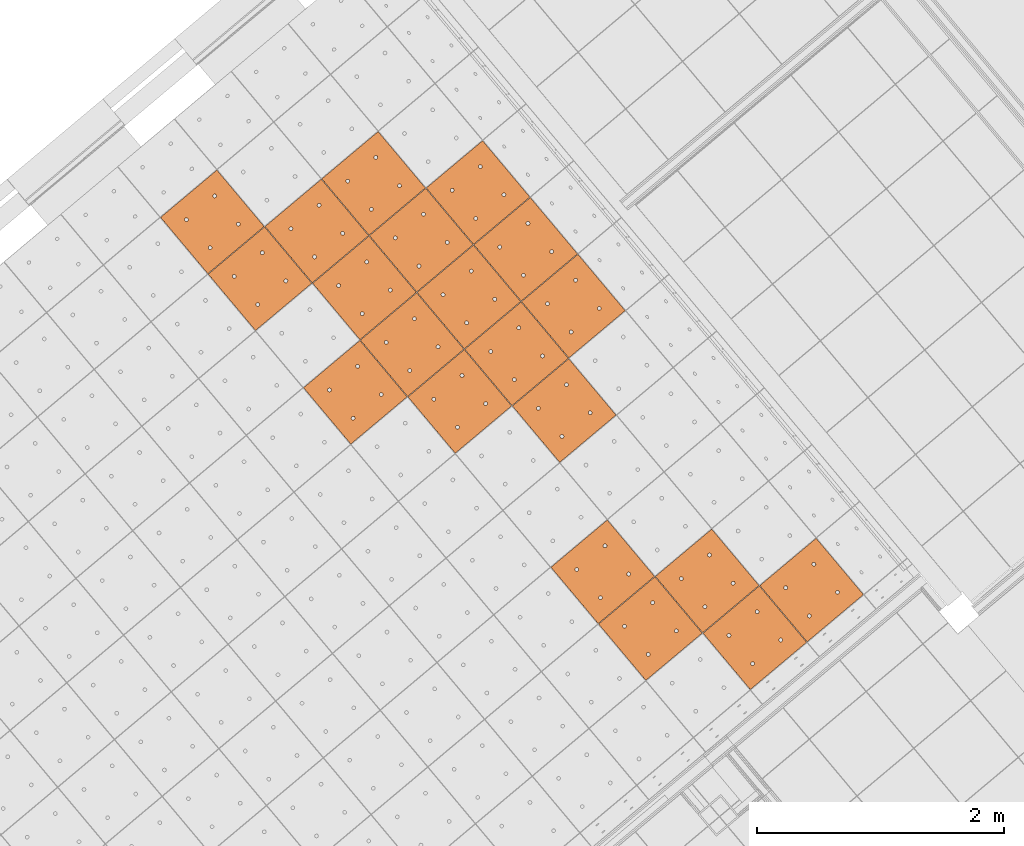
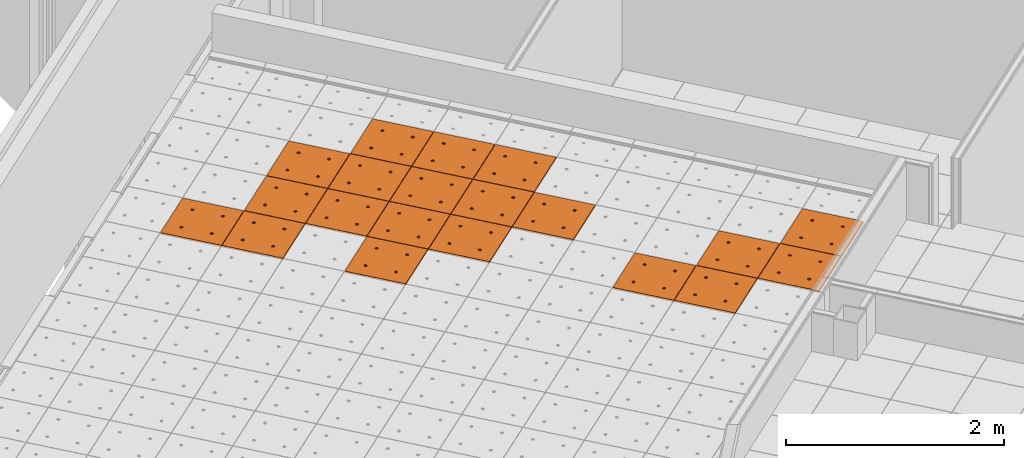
# One storey, part 173 of 338: 20 proxies, 1 element without a shape of its own.
"""IFC2X3 building model written with IfcOpenShell, lengths in millimetres."""

import ifcopenshell
import ifcopenshell.guid

model = None  # the IFC model being written
_history = None  # IfcOwnerHistory: only IFC2X3 demands one
_inside = {}  # id of a spatial element -> (the spatial element, [elements in it])
_under = {}  # id of a project, library or spatial element -> (it, [spatial elements below it])
_declared = {}  # id of a project -> (the project, [libraries it declares])
_typed = {}  # id of a type object -> (the type object, [elements of that type])
_made_of = {}  # id of a material, layer set ... -> (it, [elements and type objects made of it])


def new_model(schema):
    """Start an empty IFC model of exactly this schema.

    Asked for "IFC4X3", IfcOpenShell would pick the latest addendum, in which some entities
    have other attributes; the version numbers below select the first issue.
    IFC2X3 requires an IfcOwnerHistory on every rooted entity: one is made here for all.
    """
    global model, _history
    if schema == "IFC4X3":
        model = ifcopenshell.file(schema_version=(4, 3, 0, 0))
    else:
        model = ifcopenshell.file(schema=schema)
    _inside.clear()
    _under.clear()
    _declared.clear()
    _typed.clear()
    _made_of.clear()
    _history = None
    if model.schema == "IFC2X3":
        org = make("IfcOrganization", Name="unknown")
        user = make(
            "IfcPersonAndOrganization",
            ThePerson=make("IfcPerson", FamilyName="unknown"),
            TheOrganization=org,
        )
        app = make(
            "IfcApplication",
            ApplicationDeveloper=org,
            Version="unknown",
            ApplicationFullName="unknown",
            ApplicationIdentifier="unknown",
        )
        _history = make(
            "IfcOwnerHistory",
            OwningUser=user,
            OwningApplication=app,
            ChangeAction="ADDED",
            CreationDate=0,
        )
    return model


def make(cls, **values):
    """One entity of the class cls with the attributes given. An attribute that is None is left unset."""
    return model.create_entity(
        cls, **{name: value for name, value in values.items() if value is not None}
    )


def entity(cls, *values):
    """Any entity or typed value of the class cls, its attributes in the order of the schema. None: left unset."""
    e = model.create_entity(cls)
    for i, value in enumerate(values):
        if value is not None:
            e[i] = value
    return e


def rooted(cls, **values):
    """An entity with a GlobalId (a new one), such as an element, a storey or a relation."""
    return make(cls, GlobalId=ifcopenshell.guid.new(), OwnerHistory=_history, **values)


def si_unit(unit_type, name, prefix=None):
    """IfcSIUnit, for example si_unit("LENGTHUNIT", "METRE", prefix="MILLI")."""
    return make("IfcSIUnit", UnitType=unit_type, Prefix=prefix, Name=name)


def converted_unit(unit_type, name, factor, base, dimensions=None, offset=None):
    """IfcConversionBasedUnit, such as the inch: factor (a typed value) times the base unit."""
    return make(
        "IfcConversionBasedUnit"
        if offset is None
        else "IfcConversionBasedUnitWithOffset",
        ConversionOffset=offset,
        Dimensions=None
        if dimensions is None
        else entity("IfcDimensionalExponents", *dimensions),
        UnitType=unit_type,
        Name=name,
        ConversionFactor=make(
            "IfcMeasureWithUnit", ValueComponent=factor, UnitComponent=base
        ),
    )


def derived_unit(unit_type, elements):
    """IfcDerivedUnit: a product of units, each with its exponent."""
    return make(
        "IfcDerivedUnit",
        Elements=[
            make("IfcDerivedUnitElement", Unit=unit, Exponent=power)
            for unit, power in elements
        ],
        UnitType=unit_type,
    )


def money_unit(currency):
    """IfcMonetaryUnit."""
    return make("IfcMonetaryUnit", Currency=currency)


def assignment(units):
    """IfcUnitAssignment: the units of a project."""
    return None if units is None else make("IfcUnitAssignment", Units=units)


def point(xyz):
    """IfcCartesianPoint."""
    return None if xyz is None else make("IfcCartesianPoint", Coordinates=xyz)


def direction(xyz):
    """IfcDirection."""
    return None if xyz is None else make("IfcDirection", DirectionRatios=xyz)


def frame(location, z_axis=None, x_axis=None):
    """IfcAxis2Placement3D, a coordinate frame: its origin and axes. An axis left out is left unset."""
    return make(
        "IfcAxis2Placement3D",
        Location=point(location),
        Axis=direction(z_axis),
        RefDirection=direction(x_axis),
    )


def origin_with_axes():
    """The frame at (0, 0, 0) with the z axis (0, 0, 1) and the x axis (1, 0, 0) written out."""
    return frame((0.0, 0.0, 0.0), z_axis=(0.0, 0.0, 1.0), x_axis=(1.0, 0.0, 0.0))


def place(relative_to, where):
    """IfcLocalPlacement: puts the frame where relative to a parent placement (None: the world)."""
    return make(
        "IfcLocalPlacement", PlacementRelTo=relative_to, RelativePlacement=where
    )


def context(
    kind, dimensions, precision=None, world=None, true_north=None, identifier=None
):
    """IfcGeometricRepresentationContext, for example the 3D "Model" context."""
    return make(
        "IfcGeometricRepresentationContext",
        ContextIdentifier=identifier,
        ContextType=kind,
        CoordinateSpaceDimension=dimensions,
        Precision=precision,
        WorldCoordinateSystem=world,
        TrueNorth=true_north,
    )


def subcontext(parent, identifier, kind, view, scale=None):
    """IfcGeometricRepresentationSubContext, for example "Body" below "Model"."""
    return make(
        "IfcGeometricRepresentationSubContext",
        ContextIdentifier=identifier,
        ContextType=kind,
        ParentContext=parent,
        TargetScale=scale,
        TargetView=view,
    )


def project(units=None, contexts=None):
    """IfcProject with its units and contexts."""
    return rooted(
        "IfcProject",
        Name="project",
        RepresentationContexts=contexts,
        UnitsInContext=assignment(units),
    )


def spatial(cls, under=None, at=None, **own):
    """A site, building, storey or space (cls), placed at a placement, below another one or the project."""
    s = rooted(cls, ObjectPlacement=at, **own)
    if under is not None:
        _under.setdefault(under.id(), (under, []))[1].append(s)
    return s


def faces_of(points, faces, orient=None, outer=None):
    """IfcFace entities. A face is a list of loops; a loop is a list of indices into points, from 0.

    orient and outer hold one flag for each loop. By default every Orientation is true, the
    first loop of a face is its IfcFaceOuterBound and the others are IfcFaceBound.
    """
    made = []
    for i, loops in enumerate(faces):
        bounds = []
        for j, loop in enumerate(loops):
            is_outer = j == 0 if outer is None else outer[i][j]
            bounds.append(
                make(
                    "IfcFaceOuterBound" if is_outer else "IfcFaceBound",
                    Bound=make("IfcPolyLoop", Polygon=[points[k] for k in loop]),
                    Orientation=True if orient is None else orient[i][j],
                )
            )
        made.append(make("IfcFace", Bounds=bounds))
    return made


def faceted_brep(points, faces, orient=None, outer=None, voids=None):
    """IfcFacetedBrep: a solid bounded by flat faces; with voids (closed shells), ...WithVoids."""
    shared = [point(p) for p in points]
    hull = make("IfcClosedShell", CfsFaces=faces_of(shared, faces, orient, outer))
    if voids is None:
        return make("IfcFacetedBrep", Outer=hull)
    return make(
        "IfcFacetedBrepWithVoids",
        Outer=hull,
        Voids=[
            make(cls, CfsFaces=faces_of(shared, fs, o, b)) for cls, fs, o, b in voids
        ],
    )


def shape(context_of_items, identifier, shape_type, items):
    """IfcShapeRepresentation: the items that make up one representation, for example the "Body"."""
    return make(
        "IfcShapeRepresentation",
        ContextOfItems=context_of_items,
        RepresentationIdentifier=identifier,
        RepresentationType=shape_type,
        Items=items,
    )


def source(mapping_origin, context_of_items, identifier, shape_type, items):
    """IfcRepresentationMap: a shape defined once, which mapped items show again and again."""
    return make(
        "IfcRepresentationMap",
        MappingOrigin=mapping_origin,
        MappedRepresentation=shape(context_of_items, identifier, shape_type, items),
    )


def transform(
    local_origin,
    x_axis=None,
    y_axis=None,
    z_axis=None,
    scale=None,
    scale2=None,
    scale3=None,
    uniform=True,
):
    """IfcCartesianTransformationOperator3D, or its non-uniform kind. x_axis, y_axis, z_axis: its Axis1, 2, 3."""
    if uniform:
        return make(
            "IfcCartesianTransformationOperator3D",
            Axis1=direction(x_axis),
            Axis2=direction(y_axis),
            LocalOrigin=point(local_origin),
            Scale=scale,
            Axis3=direction(z_axis),
        )
    return make(
        "IfcCartesianTransformationOperator3DnonUniform",
        Axis1=direction(x_axis),
        Axis2=direction(y_axis),
        LocalOrigin=point(local_origin),
        Scale=scale,
        Axis3=direction(z_axis),
        Scale2=scale2,
        Scale3=scale3,
    )


def mapped(mapping_source, mapping_target):
    """IfcMappedItem: shows the shape of a source again, moved by a transform."""
    return make(
        "IfcMappedItem", MappingSource=mapping_source, MappingTarget=mapping_target
    )


def material(Name=None, Category=None):
    """IfcMaterial."""
    return make("IfcMaterial", Name=Name, Category=Category)


def made_of(thing, what):
    """Note that an element or type object is made of a material, layer set ...; save() writes the relation."""
    if what is not None:
        _made_of.setdefault(what.id(), (what, []))[1].append(thing)
    return thing


def type_object(cls, material=None, **own):
    """A type object (cls), such as IfcWallType, which elements share."""
    return made_of(rooted(cls, **own), material)


def type_shapes(of_type, sources):
    """Give a type object the sources (RepresentationMaps) that its elements show as mapped items."""
    of_type.RepresentationMaps = sources


def element(
    cls,
    number,
    at=None,
    inside=None,
    cuts=None,
    type_object=None,
    material=None,
    context=None,
    identifier="Body",
    shape_type=None,
    held_by="IfcProductDefinitionShape",
    body=None,
    shapes=None,
    **own,
):
    """One element of the class cls, such as IfcWall. Its Tag is "e" and its number.

    at: its placement. inside: the storey or other place that contains it. cuts: it is an
    opening in that element (IfcRelVoidsElement). A single representation is given by context,
    identifier, shape_type and body (its items); several are given by shapes. held_by: the class
    of the entity that holds the representations. save() writes the other relations.
    """
    e = rooted(cls, Tag="e%d" % number, ObjectPlacement=at, **own)
    if body is not None:
        shapes = [shape(context, identifier, shape_type, body)]
    if shapes is not None:
        e.Representation = make(held_by, Representations=shapes)
    if inside is not None:
        _inside.setdefault(inside.id(), (inside, []))[1].append(e)
    if cuts is not None:
        rooted(
            "IfcRelVoidsElement", RelatingBuildingElement=cuts, RelatedOpeningElement=e
        )
    if type_object is not None:
        _typed.setdefault(type_object.id(), (type_object, []))[1].append(e)
    return made_of(e, material)


def aggregate(whole, parts):
    """IfcRelAggregates: a whole, such as a stair, and the parts it consists of."""
    return rooted("IfcRelAggregates", RelatingObject=whole, RelatedObjects=parts)


def save(model, path):
    """Write the relations noted so far, then the file.

    IfcRelAggregates (storeys below a building ...), IfcRelContainedInSpatialStructure (elements
    in a storey), IfcRelDefinesByType, IfcRelAssociatesMaterial and IfcRelDeclares: one each for
    every whole, place, type object, material and project.
    """
    for whole, parts in _under.values():
        aggregate(whole, parts)
    for where, things in _inside.values():
        rooted(
            "IfcRelContainedInSpatialStructure",
            RelatedElements=things,
            RelatingStructure=where,
        )
    for kind, things in _typed.values():
        rooted("IfcRelDefinesByType", RelatedObjects=things, RelatingType=kind)
    for what, things in _made_of.values():
        rooted("IfcRelAssociatesMaterial", RelatedObjects=things, RelatingMaterial=what)
    for by, libraries in _declared.values():
        rooted("IfcRelDeclares", RelatingContext=by, RelatedDefinitions=libraries)
    model.write(path)


model = new_model("IFC2X3")

# Units and contexts
model_context = context("Model", 3, precision=0.01, world=origin_with_axes(), true_north=direction((0.0, 1.0)))
plan_context = context("Plan", 3, precision=0.01, world=origin_with_axes(), true_north=direction((0.0, 1.0)))
body_context = subcontext(model_context, "Body", "Model", "MODEL_VIEW")
ifc_project = project(units=[si_unit("LENGTHUNIT", "METRE", prefix="MILLI"), si_unit("AREAUNIT", "SQUARE_METRE"), si_unit("VOLUMEUNIT", "CUBIC_METRE"), converted_unit("PLANEANGLEUNIT", "DEGREE", entity("IfcPlaneAngleMeasure", 0.0174532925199), si_unit("PLANEANGLEUNIT", "RADIAN"), dimensions=[0, 0, 0, 0, 0, 0, 0]), money_unit("EUR"), converted_unit("TIMEUNIT", "Year", entity("IfcTimeMeasure", 31556926.0), si_unit("TIMEUNIT", "SECOND"), dimensions=[0, 0, 1, 0, 0, 0, 0]), si_unit("MASSUNIT", "GRAM", prefix="KILO"), si_unit("THERMODYNAMICTEMPERATUREUNIT", "DEGREE_CELSIUS"), si_unit("LUMINOUSINTENSITYUNIT", "LUMEN"), si_unit("ENERGYUNIT", "JOULE", prefix="MEGA"), derived_unit("THERMALCONDUCTANCEUNIT", [(si_unit("POWERUNIT", "WATT"), 1), (si_unit("LENGTHUNIT", "METRE"), -1), (si_unit("THERMODYNAMICTEMPERATUREUNIT", "KELVIN"), -1)]), derived_unit("SPECIFICHEATCAPACITYUNIT", [(si_unit("ENERGYUNIT", "JOULE"), 1), (si_unit("MASSUNIT", "GRAM", prefix="KILO"), -1), (si_unit("THERMODYNAMICTEMPERATUREUNIT", "KELVIN"), -1)]), derived_unit("MASSDENSITYUNIT", [(si_unit("MASSUNIT", "GRAM", prefix="KILO"), 1), (si_unit("VOLUMEUNIT", "CUBIC_METRE"), -1)])], contexts=[model_context, plan_context])

# Site, building, storey
site_placement = place(None, origin_with_axes())
site = spatial("IfcSite", under=ifc_project, at=site_placement, Name="Fortuinstraat Woensdrecht", CompositionType="ELEMENT")
building_placement = place(site_placement, origin_with_axes())
building = spatial("IfcBuilding", under=site, at=building_placement, Name="IKC Fortuna", CompositionType="ELEMENT")
storey_placement = place(building_placement, origin_with_axes())
storey = spatial("IfcBuildingStorey", under=building, at=storey_placement, Name="00 begane grond", CompositionType="ELEMENT", Elevation=0.0)

# Covering, proxies
covering_type = type_object("IfcCoveringType", Name="Curtain Wall Type", PredefinedType="CEILING")
covering_placement = place(storey_placement, frame((15863.124366, 4456.31398675, 4619.99995334), z_axis=(0.0, 0.0, 1.0), x_axis=(1.0, 0.0, 0.0)))
covering = element("IfcCovering", 1, at=covering_placement, inside=storey, type_object=covering_type, Name="45_Plafondafwerking_P01", PredefinedType="CEILING")
ifc_material = material(Name="Gipsplaat")
building_element_proxy_type = type_object("IfcBuildingElementProxyType", Name="Main Panel 600 x 600 x 20", PredefinedType="NOTDEFINED")
shared_shape = source(origin_with_axes(), body_context, "Body", "Brep", [
    faceted_brep([(2.50000262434, 2.50000269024, -10.0), (299.999999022, 2.50000269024, -10.0), (299.999999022, 2.50000269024, 10.0), (2.50000262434, 2.50000269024, 10.0), (2.50000262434, 300.000003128, -10.0), (2.50000262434, 597.500003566, -10.0), (299.999999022, 597.500003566, -10.0), (597.499995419, 597.500003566, -10.0), (597.499995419, 300.000003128, -10.0), (597.499995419, 2.50000269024, -10.0), (166.250000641, 450.062333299, -10.0), (165.794233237, 452.647118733, -10.0), (164.896546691, 455.113492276, -10.0), (163.584216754, 457.386514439, -10.0), (161.897117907, 459.397120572, -10.0), (159.886511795, 461.084219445, -10.0), (157.613489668, 462.396549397, -10.0), (155.147116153, 463.294235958, -10.0), (152.56233076, 463.750003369, -10.0), (149.937670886, 463.750003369, -10.0), (147.352885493, 463.294235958, -10.0), (144.886511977, 462.396549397, -10.0), (142.61348985, 461.084219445, -10.0), (140.602883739, 459.397120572, -10.0), (138.915784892, 457.386514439, -10.0), (137.603454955, 455.113492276, -10.0), (136.705768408, 452.647118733, -10.0), (136.250001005, 450.062333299, -10.0), (136.250001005, 448.750003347, -10.0), (136.250001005, 447.437673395, -10.0), (136.705768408, 444.852887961, -10.0), (137.603454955, 442.386514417, -10.0), (138.915784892, 440.113492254, -10.0), (140.602883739, 438.102886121, -10.0), (142.61348985, 436.415787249, -10.0), (144.886511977, 435.103457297, -10.0), (147.352885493, 434.205770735, -10.0), (149.937670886, 433.750003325, -10.0), (152.56233076, 433.750003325, -10.0), (155.147116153, 434.205770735, -10.0), (157.613489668, 435.103457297, -10.0), (159.886511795, 436.415787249, -10.0), (161.897117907, 438.102886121, -10.0), (163.584216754, 440.113492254, -10.0), (164.896546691, 442.386514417, -10.0), (165.794233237, 444.852887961, -10.0), (166.250000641, 447.437673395, -10.0), (463.749997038, 450.062333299, -10.0), (463.294229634, 452.647118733, -10.0), (462.396543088, 455.113492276, -10.0), (461.084213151, 457.386514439, -10.0), (459.397114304, 459.397120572, -10.0), (457.386508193, 461.084219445, -10.0), (455.113486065, 462.396549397, -10.0), (452.64711255, 463.294235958, -10.0), (450.062327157, 463.750003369, -10.0), (447.437667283, 463.750003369, -10.0), (444.85288189, 463.294235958, -10.0), (442.386508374, 462.396549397, -10.0), (440.113486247, 461.084219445, -10.0), (438.102880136, 459.397120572, -10.0), (436.415781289, 457.386514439, -10.0), (435.103451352, 455.113492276, -10.0), (434.205764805, 452.647118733, -10.0), (433.749997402, 450.062333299, -10.0), (433.749997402, 448.750003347, -10.0), (433.749997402, 447.437673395, -10.0), (434.205764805, 444.852887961, -10.0), (435.103451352, 442.386514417, -10.0), (436.415781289, 440.113492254, -10.0), (438.102880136, 438.102886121, -10.0), (440.113486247, 436.415787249, -10.0), (442.386508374, 435.103457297, -10.0), (444.85288189, 434.205770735, -10.0), (447.437667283, 433.750003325, -10.0), (450.062327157, 433.750003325, -10.0), (452.64711255, 434.205770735, -10.0), (455.113486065, 435.103457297, -10.0), (457.386508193, 436.415787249, -10.0), (459.397114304, 438.102886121, -10.0), (461.084213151, 440.113492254, -10.0), (462.396543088, 442.386514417, -10.0), (463.294229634, 444.852887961, -10.0), (463.749997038, 447.437673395, -10.0), (463.749997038, 152.562332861, -10.0), (463.294229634, 155.147118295, -10.0), (462.396543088, 157.613491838, -10.0), (461.084213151, 159.886514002, -10.0), (459.397114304, 161.897120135, -10.0), (457.386508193, 163.584219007, -10.0), (455.113486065, 164.896548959, -10.0), (452.64711255, 165.79423552, -10.0), (450.062327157, 166.250002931, -10.0), (447.437667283, 166.250002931, -10.0), (444.85288189, 165.79423552, -10.0), (442.386508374, 164.896548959, -10.0), (440.113486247, 163.584219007, -10.0), (438.102880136, 161.897120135, -10.0), (436.415781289, 159.886514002, -10.0), (435.103451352, 157.613491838, -10.0), (434.205764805, 155.147118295, -10.0), (433.749997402, 152.562332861, -10.0), (433.749997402, 151.250002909, -10.0), (433.749997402, 149.937672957, -10.0), (434.205764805, 147.352887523, -10.0), (435.103451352, 144.88651398, -10.0), (436.415781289, 142.613491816, -10.0), (438.102880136, 140.602885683, -10.0), (440.113486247, 138.915786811, -10.0), (442.386508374, 137.603456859, -10.0), (444.85288189, 136.705770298, -10.0), (447.437667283, 136.250002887, -10.0), (450.062327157, 136.250002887, -10.0), (452.64711255, 136.705770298, -10.0), (455.113486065, 137.603456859, -10.0), (457.386508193, 138.915786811, -10.0), (459.397114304, 140.602885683, -10.0), (461.084213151, 142.613491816, -10.0), (462.396543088, 144.88651398, -10.0), (463.294229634, 147.352887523, -10.0), (463.749997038, 149.937672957, -10.0), (166.250000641, 152.562332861, -10.0), (165.794233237, 155.147118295, -10.0), (164.896546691, 157.613491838, -10.0), (163.584216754, 159.886514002, -10.0), (161.897117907, 161.897120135, -10.0), (159.886511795, 163.584219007, -10.0), (157.613489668, 164.896548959, -10.0), (155.147116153, 165.79423552, -10.0), (152.56233076, 166.250002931, -10.0), (149.937670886, 166.250002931, -10.0), (147.352885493, 165.79423552, -10.0), (144.886511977, 164.896548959, -10.0), (142.61348985, 163.584219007, -10.0), (140.602883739, 161.897120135, -10.0), (138.915784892, 159.886514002, -10.0), (137.603454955, 157.613491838, -10.0), (136.705768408, 155.147118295, -10.0), (136.250001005, 152.562332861, -10.0), (136.250001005, 151.250002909, -10.0), (136.250001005, 149.937672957, -10.0), (136.705768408, 147.352887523, -10.0), (137.603454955, 144.88651398, -10.0), (138.915784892, 142.613491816, -10.0), (140.602883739, 140.602885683, -10.0), (142.61348985, 138.915786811, -10.0), (144.886511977, 137.603456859, -10.0), (147.352885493, 136.705770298, -10.0), (149.937670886, 136.250002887, -10.0), (152.56233076, 136.250002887, -10.0), (155.147116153, 136.705770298, -10.0), (157.613489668, 137.603456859, -10.0), (159.886511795, 138.915786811, -10.0), (161.897117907, 140.602885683, -10.0), (163.584216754, 142.613491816, -10.0), (164.896546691, 144.88651398, -10.0), (165.794233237, 147.352887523, -10.0), (166.250000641, 149.937672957, -10.0), (597.499995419, 2.50000269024, 10.0), (597.499995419, 300.000003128, 10.0), (597.499995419, 597.500003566, 10.0), (299.999999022, 597.500003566, 10.0), (2.50000262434, 597.500003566, 10.0), (2.50000262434, 300.000003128, 10.0), (166.250000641, 450.062333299, 10.0), (166.250000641, 447.437673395, 10.0), (165.794233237, 444.852887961, 10.0), (164.896546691, 442.386514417, 10.0), (163.584216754, 440.113492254, 10.0), (161.897117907, 438.102886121, 10.0), (159.886511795, 436.415787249, 10.0), (157.613489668, 435.103457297, 10.0), (155.147116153, 434.205770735, 10.0), (152.56233076, 433.750003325, 10.0), (149.937670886, 433.750003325, 10.0), (147.352885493, 434.205770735, 10.0), (144.886511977, 435.103457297, 10.0), (142.61348985, 436.415787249, 10.0), (140.602883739, 438.102886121, 10.0), (138.915784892, 440.113492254, 10.0), (137.603454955, 442.386514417, 10.0), (136.705768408, 444.852887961, 10.0), (136.250001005, 447.437673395, 10.0), (136.250001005, 448.750003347, 10.0), (136.250001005, 450.062333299, 10.0), (136.705768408, 452.647118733, 10.0), (137.603454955, 455.113492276, 10.0), (138.915784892, 457.386514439, 10.0), (140.602883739, 459.397120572, 10.0), (142.61348985, 461.084219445, 10.0), (144.886511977, 462.396549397, 10.0), (147.352885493, 463.294235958, 10.0), (149.937670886, 463.750003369, 10.0), (152.56233076, 463.750003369, 10.0), (155.147116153, 463.294235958, 10.0), (157.613489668, 462.396549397, 10.0), (159.886511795, 461.084219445, 10.0), (161.897117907, 459.397120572, 10.0), (163.584216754, 457.386514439, 10.0), (164.896546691, 455.113492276, 10.0), (165.794233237, 452.647118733, 10.0), (463.749997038, 450.062333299, 10.0), (463.749997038, 447.437673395, 10.0), (463.294229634, 444.852887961, 10.0), (462.396543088, 442.386514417, 10.0), (461.084213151, 440.113492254, 10.0), (459.397114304, 438.102886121, 10.0), (457.386508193, 436.415787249, 10.0), (455.113486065, 435.103457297, 10.0), (452.64711255, 434.205770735, 10.0), (450.062327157, 433.750003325, 10.0), (447.437667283, 433.750003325, 10.0), (444.85288189, 434.205770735, 10.0), (442.386508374, 435.103457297, 10.0), (440.113486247, 436.415787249, 10.0), (438.102880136, 438.102886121, 10.0), (436.415781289, 440.113492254, 10.0), (435.103451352, 442.386514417, 10.0), (434.205764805, 444.852887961, 10.0), (433.749997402, 447.437673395, 10.0), (433.749997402, 448.750003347, 10.0), (433.749997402, 450.062333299, 10.0), (434.205764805, 452.647118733, 10.0), (435.103451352, 455.113492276, 10.0), (436.415781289, 457.386514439, 10.0), (438.102880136, 459.397120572, 10.0), (440.113486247, 461.084219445, 10.0), (442.386508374, 462.396549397, 10.0), (444.85288189, 463.294235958, 10.0), (447.437667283, 463.750003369, 10.0), (450.062327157, 463.750003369, 10.0), (452.64711255, 463.294235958, 10.0), (455.113486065, 462.396549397, 10.0), (457.386508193, 461.084219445, 10.0), (459.397114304, 459.397120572, 10.0), (461.084213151, 457.386514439, 10.0), (462.396543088, 455.113492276, 10.0), (463.294229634, 452.647118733, 10.0), (463.749997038, 152.562332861, 10.0), (463.749997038, 149.937672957, 10.0), (463.294229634, 147.352887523, 10.0), (462.396543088, 144.88651398, 10.0), (461.084213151, 142.613491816, 10.0), (459.397114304, 140.602885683, 10.0), (457.386508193, 138.915786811, 10.0), (455.113486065, 137.603456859, 10.0), (452.64711255, 136.705770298, 10.0), (450.062327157, 136.250002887, 10.0), (447.437667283, 136.250002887, 10.0), (444.85288189, 136.705770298, 10.0), (442.386508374, 137.603456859, 10.0), (440.113486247, 138.915786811, 10.0), (438.102880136, 140.602885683, 10.0), (436.415781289, 142.613491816, 10.0), (435.103451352, 144.88651398, 10.0), (434.205764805, 147.352887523, 10.0), (433.749997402, 149.937672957, 10.0), (433.749997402, 151.250002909, 10.0), (433.749997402, 152.562332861, 10.0), (434.205764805, 155.147118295, 10.0), (435.103451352, 157.613491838, 10.0), (436.415781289, 159.886514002, 10.0), (438.102880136, 161.897120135, 10.0), (440.113486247, 163.584219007, 10.0), (442.386508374, 164.896548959, 10.0), (444.85288189, 165.79423552, 10.0), (447.437667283, 166.250002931, 10.0), (450.062327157, 166.250002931, 10.0), (452.64711255, 165.79423552, 10.0), (455.113486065, 164.896548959, 10.0), (457.386508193, 163.584219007, 10.0), (459.397114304, 161.897120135, 10.0), (461.084213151, 159.886514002, 10.0), (462.396543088, 157.613491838, 10.0), (463.294229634, 155.147118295, 10.0), (166.250000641, 152.562332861, 10.0), (166.250000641, 149.937672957, 10.0), (165.794233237, 147.352887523, 10.0), (164.896546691, 144.88651398, 10.0), (163.584216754, 142.613491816, 10.0), (161.897117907, 140.602885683, 10.0), (159.886511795, 138.915786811, 10.0), (157.613489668, 137.603456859, 10.0), (155.147116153, 136.705770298, 10.0), (152.56233076, 136.250002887, 10.0), (149.937670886, 136.250002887, 10.0), (147.352885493, 136.705770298, 10.0), (144.886511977, 137.603456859, 10.0), (142.61348985, 138.915786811, 10.0), (140.602883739, 140.602885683, 10.0), (138.915784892, 142.613491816, 10.0), (137.603454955, 144.88651398, 10.0), (136.705768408, 147.352887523, 10.0), (136.250001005, 149.937672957, 10.0), (136.250001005, 151.250002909, 10.0), (136.250001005, 152.562332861, 10.0), (136.705768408, 155.147118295, 10.0), (137.603454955, 157.613491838, 10.0), (138.915784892, 159.886514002, 10.0), (140.602883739, 161.897120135, 10.0), (142.61348985, 163.584219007, 10.0), (144.886511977, 164.896548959, 10.0), (147.352885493, 165.79423552, 10.0), (149.937670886, 166.250002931, 10.0), (152.56233076, 166.250002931, 10.0), (155.147116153, 165.79423552, 10.0), (157.613489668, 164.896548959, 10.0), (159.886511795, 163.584219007, 10.0), (161.897117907, 161.897120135, 10.0), (163.584216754, 159.886514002, 10.0), (164.896546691, 157.613491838, 10.0), (165.794233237, 155.147118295, 10.0)], [[[0, 1, 2, 3]], [[0, 4, 5, 6, 7, 8, 9, 1], [10, 11, 12, 13, 14, 15, 16, 17, 18, 19, 20, 21, 22, 23, 24, 25, 26, 27, 28, 29, 30, 31, 32, 33, 34, 35, 36, 37, 38, 39, 40, 41, 42, 43, 44, 45, 46], [47, 48, 49, 50, 51, 52, 53, 54, 55, 56, 57, 58, 59, 60, 61, 62, 63, 64, 65, 66, 67, 68, 69, 70, 71, 72, 73, 74, 75, 76, 77, 78, 79, 80, 81, 82, 83], [84, 85, 86, 87, 88, 89, 90, 91, 92, 93, 94, 95, 96, 97, 98, 99, 100, 101, 102, 103, 104, 105, 106, 107, 108, 109, 110, 111, 112, 113, 114, 115, 116, 117, 118, 119, 120], [121, 122, 123, 124, 125, 126, 127, 128, 129, 130, 131, 132, 133, 134, 135, 136, 137, 138, 139, 140, 141, 142, 143, 144, 145, 146, 147, 148, 149, 150, 151, 152, 153, 154, 155, 156, 157]], [[1, 9, 158, 2]], [[3, 2, 158, 159, 160, 161, 162, 163], [164, 165, 166, 167, 168, 169, 170, 171, 172, 173, 174, 175, 176, 177, 178, 179, 180, 181, 182, 183, 184, 185, 186, 187, 188, 189, 190, 191, 192, 193, 194, 195, 196, 197, 198, 199, 200], [201, 202, 203, 204, 205, 206, 207, 208, 209, 210, 211, 212, 213, 214, 215, 216, 217, 218, 219, 220, 221, 222, 223, 224, 225, 226, 227, 228, 229, 230, 231, 232, 233, 234, 235, 236, 237], [238, 239, 240, 241, 242, 243, 244, 245, 246, 247, 248, 249, 250, 251, 252, 253, 254, 255, 256, 257, 258, 259, 260, 261, 262, 263, 264, 265, 266, 267, 268, 269, 270, 271, 272, 273, 274], [275, 276, 277, 278, 279, 280, 281, 282, 283, 284, 285, 286, 287, 288, 289, 290, 291, 292, 293, 294, 295, 296, 297, 298, 299, 300, 301, 302, 303, 304, 305, 306, 307, 308, 309, 310, 311]], [[4, 0, 3, 163]], [[5, 4, 163, 162]], [[6, 5, 162, 161]], [[7, 6, 161, 160]], [[8, 7, 160, 159]], [[9, 8, 159, 158]], [[11, 10, 164, 200]], [[12, 11, 200, 199]], [[13, 12, 199, 198]], [[14, 13, 198, 197]], [[15, 14, 197, 196]], [[16, 15, 196, 195]], [[17, 16, 195, 194]], [[18, 17, 194, 193]], [[19, 18, 193, 192]], [[20, 19, 192, 191]], [[21, 20, 191, 190]], [[22, 21, 190, 189]], [[23, 22, 189, 188]], [[24, 23, 188, 187]], [[25, 24, 187, 186]], [[26, 25, 186, 185]], [[27, 26, 185, 184]], [[28, 27, 184, 183]], [[29, 28, 183, 182]], [[30, 29, 182, 181]], [[31, 30, 181, 180]], [[32, 31, 180, 179]], [[33, 32, 179, 178]], [[34, 33, 178, 177]], [[35, 34, 177, 176]], [[36, 35, 176, 175]], [[37, 36, 175, 174]], [[38, 37, 174, 173]], [[39, 38, 173, 172]], [[40, 39, 172, 171]], [[41, 40, 171, 170]], [[42, 41, 170, 169]], [[43, 42, 169, 168]], [[44, 43, 168, 167]], [[45, 44, 167, 166]], [[46, 45, 166, 165]], [[10, 46, 165, 164]], [[48, 47, 201, 237]], [[49, 48, 237, 236]], [[50, 49, 236, 235]], [[51, 50, 235, 234]], [[52, 51, 234, 233]], [[53, 52, 233, 232]], [[54, 53, 232, 231]], [[55, 54, 231, 230]], [[56, 55, 230, 229]], [[57, 56, 229, 228]], [[58, 57, 228, 227]], [[59, 58, 227, 226]], [[60, 59, 226, 225]], [[61, 60, 225, 224]], [[62, 61, 224, 223]], [[63, 62, 223, 222]], [[64, 63, 222, 221]], [[65, 64, 221, 220]], [[66, 65, 220, 219]], [[67, 66, 219, 218]], [[68, 67, 218, 217]], [[69, 68, 217, 216]], [[70, 69, 216, 215]], [[71, 70, 215, 214]], [[72, 71, 214, 213]], [[73, 72, 213, 212]], [[74, 73, 212, 211]], [[75, 74, 211, 210]], [[76, 75, 210, 209]], [[77, 76, 209, 208]], [[78, 77, 208, 207]], [[79, 78, 207, 206]], [[80, 79, 206, 205]], [[81, 80, 205, 204]], [[82, 81, 204, 203]], [[83, 82, 203, 202]], [[47, 83, 202, 201]], [[85, 84, 238, 274]], [[86, 85, 274, 273]], [[87, 86, 273, 272]], [[88, 87, 272, 271]], [[89, 88, 271, 270]], [[90, 89, 270, 269]], [[91, 90, 269, 268]], [[92, 91, 268, 267]], [[93, 92, 267, 266]], [[94, 93, 266, 265]], [[95, 94, 265, 264]], [[96, 95, 264, 263]], [[97, 96, 263, 262]], [[98, 97, 262, 261]], [[99, 98, 261, 260]], [[100, 99, 260, 259]], [[101, 100, 259, 258]], [[102, 101, 258, 257]], [[103, 102, 257, 256]], [[104, 103, 256, 255]], [[105, 104, 255, 254]], [[106, 105, 254, 253]], [[107, 106, 253, 252]], [[108, 107, 252, 251]], [[109, 108, 251, 250]], [[110, 109, 250, 249]], [[111, 110, 249, 248]], [[112, 111, 248, 247]], [[113, 112, 247, 246]], [[114, 113, 246, 245]], [[115, 114, 245, 244]], [[116, 115, 244, 243]], [[117, 116, 243, 242]], [[118, 117, 242, 241]], [[119, 118, 241, 240]], [[120, 119, 240, 239]], [[84, 120, 239, 238]], [[122, 121, 275, 311]], [[123, 122, 311, 310]], [[124, 123, 310, 309]], [[125, 124, 309, 308]], [[126, 125, 308, 307]], [[127, 126, 307, 306]], [[128, 127, 306, 305]], [[129, 128, 305, 304]], [[130, 129, 304, 303]], [[131, 130, 303, 302]], [[132, 131, 302, 301]], [[133, 132, 301, 300]], [[134, 133, 300, 299]], [[135, 134, 299, 298]], [[136, 135, 298, 297]], [[137, 136, 297, 296]], [[138, 137, 296, 295]], [[139, 138, 295, 294]], [[140, 139, 294, 293]], [[141, 140, 293, 292]], [[142, 141, 292, 291]], [[143, 142, 291, 290]], [[144, 143, 290, 289]], [[145, 144, 289, 288]], [[146, 145, 288, 287]], [[147, 146, 287, 286]], [[148, 147, 286, 285]], [[149, 148, 285, 284]], [[150, 149, 284, 283]], [[151, 150, 283, 282]], [[152, 151, 282, 281]], [[153, 152, 281, 280]], [[154, 153, 280, 279]], [[155, 154, 279, 278]], [[156, 155, 278, 277]], [[157, 156, 277, 276]], [[121, 157, 276, 275]]]),
])
type_shapes(building_element_proxy_type, [shared_shape])
proxy_1_placement = place(covering_placement, frame((-5611.88057739, 2772.7468991, 13.5167748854), z_axis=(0.0, 0.0, 1.0), x_axis=(0.642787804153, -0.766044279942, 0.0)))
proxy_1 = element("IfcBuildingElementProxy", 2, at=proxy_1_placement, type_object=building_element_proxy_type, material=ifc_material, Name="__600x948 Rockfon Krios", context=body_context, shape_type="MappedRepresentation", body=[
    mapped(shared_shape, transform((-300.0, 299.995617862, -1.62150043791), x_axis=(0.0, -0.999985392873, 0.00540500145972), y_axis=(1.0, 0.0, 0.0), z_axis=(0.0, 0.00540500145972, 0.999985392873))),
])
proxy_2_placement = place(covering_placement, frame((-4306.96818662, 3084.45442898, 7.03077313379), z_axis=(0.0, 0.0, 1.0), x_axis=(0.642787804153, -0.766044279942, 0.0)))
proxy_2 = element("IfcBuildingElementProxy", 3, at=proxy_2_placement, type_object=building_element_proxy_type, material=ifc_material, Name="__600x959 Rockfon Krios", context=body_context, shape_type="MappedRepresentation", body=[
    mapped(shared_shape, transform((-300.0, 299.995617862, -1.62150043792), x_axis=(0.0, -0.999985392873, 0.00540500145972), y_axis=(1.0, 0.0, 0.0), z_axis=(0.0, 0.00540500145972, 0.999985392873))),
])
proxy_3_placement = place(covering_placement, frame((-4766.58804076, 2698.78738005, 10.2737740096), z_axis=(0.0, 0.0, 1.0), x_axis=(0.642787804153, -0.766044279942, 0.0)))
proxy_3 = element("IfcBuildingElementProxy", 4, at=proxy_3_placement, type_object=building_element_proxy_type, material=ifc_material, Name="__600x960 Rockfon Krios", context=body_context, shape_type="MappedRepresentation", body=[
    mapped(shared_shape, transform((-300.0, 299.995617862, -1.62150043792), x_axis=(0.0, -0.999985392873, 0.00540500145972), y_axis=(1.0, 0.0, 0.0), z_axis=(0.0, 0.00540500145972, 0.999985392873))),
])
proxy_4_placement = place(covering_placement, frame((-5226.2078949, 2313.12033113, 13.5167748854), z_axis=(0.0, 0.0, 1.0), x_axis=(0.642787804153, -0.766044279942, 0.0)))
proxy_4 = element("IfcBuildingElementProxy", 5, at=proxy_4_placement, type_object=building_element_proxy_type, material=ifc_material, Name="__600x961 Rockfon Krios", context=body_context, shape_type="MappedRepresentation", body=[
    mapped(shared_shape, transform((-300.0, 299.995617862, -1.62150043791), x_axis=(0.0, -0.999985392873, 0.00540500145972), y_axis=(1.0, 0.0, 0.0), z_axis=(0.0, 0.00540500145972, 0.999985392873))),
])
proxy_5_placement = place(covering_placement, frame((-3461.67564998, 3010.49490993, 3.78777225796), z_axis=(0.0, 0.0, 1.0), x_axis=(0.642787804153, -0.766044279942, 0.0)))
proxy_5 = element("IfcBuildingElementProxy", 6, at=proxy_5_placement, type_object=building_element_proxy_type, material=ifc_material, Name="__600x971 Rockfon Krios", context=body_context, shape_type="MappedRepresentation", body=[
    mapped(shared_shape, transform((-300.0, 299.995617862, -1.62150043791), x_axis=(0.0, -0.999985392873, 0.00540500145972), y_axis=(1.0, 0.0, 0.0), z_axis=(0.0, 0.00540500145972, 0.999985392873))),
])
proxy_6_placement = place(covering_placement, frame((-3921.29550413, 2624.82786101, 7.03077313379), z_axis=(0.0, 0.0, 1.0), x_axis=(0.642787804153, -0.766044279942, 0.0)))
proxy_6 = element("IfcBuildingElementProxy", 7, at=proxy_6_placement, type_object=building_element_proxy_type, material=ifc_material, Name="__600x972 Rockfon Krios", context=body_context, shape_type="MappedRepresentation", body=[
    mapped(shared_shape, transform((-300.0, 299.995617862, -1.62150043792), x_axis=(0.0, -0.999985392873, 0.00540500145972), y_axis=(1.0, 0.0, 0.0), z_axis=(0.0, 0.00540500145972, 0.999985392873))),
])
proxy_7_placement = place(covering_placement, frame((-4380.91535827, 2239.16081209, 10.2737740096), z_axis=(0.0, 0.0, 1.0), x_axis=(0.642787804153, -0.766044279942, 0.0)))
proxy_7 = element("IfcBuildingElementProxy", 8, at=proxy_7_placement, type_object=building_element_proxy_type, material=ifc_material, Name="__600x973 Rockfon Krios", context=body_context, shape_type="MappedRepresentation", body=[
    mapped(shared_shape, transform((-300.0, 299.995617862, -1.62150043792), x_axis=(0.0, -0.999985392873, 0.00540500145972), y_axis=(1.0, 0.0, 0.0), z_axis=(0.0, 0.00540500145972, 0.999985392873))),
])
proxy_8_placement = place(covering_placement, frame((-3076.00296749, 2550.86834197, 3.78777225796), z_axis=(0.0, 0.0, 1.0), x_axis=(0.642787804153, -0.766044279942, 0.0)))
proxy_8 = element("IfcBuildingElementProxy", 9, at=proxy_8_placement, type_object=building_element_proxy_type, material=ifc_material, Name="__600x984 Rockfon Krios", context=body_context, shape_type="MappedRepresentation", body=[
    mapped(shared_shape, transform((-300.0, 299.995617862, -1.62150043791), x_axis=(0.0, -0.999985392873, 0.00540500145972), y_axis=(1.0, 0.0, 0.0), z_axis=(0.0, 0.00540500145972, 0.999985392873))),
])
proxy_9_placement = place(covering_placement, frame((-3535.62282163, 2165.20129304, 7.03077313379), z_axis=(0.0, 0.0, 1.0), x_axis=(0.642787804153, -0.766044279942, 0.0)))
proxy_9 = element("IfcBuildingElementProxy", 10, at=proxy_9_placement, type_object=building_element_proxy_type, material=ifc_material, Name="__600x985 Rockfon Krios", context=body_context, shape_type="MappedRepresentation", body=[
    mapped(shared_shape, transform((-300.0, 299.995617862, -1.62150043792), x_axis=(0.0, -0.999985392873, 0.00540500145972), y_axis=(1.0, 0.0, 0.0), z_axis=(0.0, 0.00540500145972, 0.999985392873))),
])
proxy_10_placement = place(covering_placement, frame((-3995.24267578, 1779.53424412, 10.2737740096), z_axis=(0.0, 0.0, 1.0), x_axis=(0.642787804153, -0.766044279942, 0.0)))
proxy_10 = element("IfcBuildingElementProxy", 11, at=proxy_10_placement, type_object=building_element_proxy_type, material=ifc_material, Name="__600x986 Rockfon Krios", context=body_context, shape_type="MappedRepresentation", body=[
    mapped(shared_shape, transform((-300.0, 299.995617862, -1.62150043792), x_axis=(0.0, -0.999985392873, 0.00540500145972), y_axis=(1.0, 0.0, 0.0), z_axis=(0.0, 0.00540500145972, 0.999985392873))),
])
proxy_11_placement = place(covering_placement, frame((-4454.86252992, 1393.8671952, 13.5167748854), z_axis=(0.0, 0.0, 1.0), x_axis=(0.642787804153, -0.766044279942, 0.0)))
proxy_11 = element("IfcBuildingElementProxy", 12, at=proxy_11_placement, type_object=building_element_proxy_type, material=ifc_material, Name="__600x987 Rockfon Krios", context=body_context, shape_type="MappedRepresentation", body=[
    mapped(shared_shape, transform((-300.0, 299.995617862, -1.62150043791), x_axis=(0.0, -0.999985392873, 0.00540500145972), y_axis=(1.0, 0.0, 0.0), z_axis=(0.0, 0.00540500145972, 0.999985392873))),
])
proxy_12_placement = place(covering_placement, frame((-2690.330285, 2091.241774, 3.78777225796), z_axis=(0.0, 0.0, 1.0), x_axis=(0.642787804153, -0.766044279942, 0.0)))
proxy_12 = element("IfcBuildingElementProxy", 13, at=proxy_12_placement, type_object=building_element_proxy_type, material=ifc_material, Name="__600x997 Rockfon Krios", context=body_context, shape_type="MappedRepresentation", body=[
    mapped(shared_shape, transform((-300.0, 299.995617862, -1.62150043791), x_axis=(0.0, -0.999985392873, 0.00540500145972), y_axis=(1.0, 0.0, 0.0), z_axis=(0.0, 0.00540500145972, 0.999985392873))),
])
proxy_13_placement = place(covering_placement, frame((-3149.95013914, 1705.57472508, 7.03077313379), z_axis=(0.0, 0.0, 1.0), x_axis=(0.642787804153, -0.766044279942, 0.0)))
proxy_13 = element("IfcBuildingElementProxy", 14, at=proxy_13_placement, type_object=building_element_proxy_type, material=ifc_material, Name="__600x998 Rockfon Krios", context=body_context, shape_type="MappedRepresentation", body=[
    mapped(shared_shape, transform((-300.0, 299.995617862, -1.62150043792), x_axis=(0.0, -0.999985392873, 0.00540500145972), y_axis=(1.0, 0.0, 0.0), z_axis=(0.0, 0.00540500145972, 0.999985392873))),
])
proxy_14_placement = place(covering_placement, frame((-3609.56999328, 1319.90767616, 10.2737740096), z_axis=(0.0, 0.0, 1.0), x_axis=(0.642787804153, -0.766044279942, 0.0)))
proxy_14 = element("IfcBuildingElementProxy", 15, at=proxy_14_placement, type_object=building_element_proxy_type, material=ifc_material, Name="__600x999 Rockfon Krios", context=body_context, shape_type="MappedRepresentation", body=[
    mapped(shared_shape, transform((-300.0, 299.995617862, -1.62150043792), x_axis=(0.0, -0.999985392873, 0.00540500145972), y_axis=(1.0, 0.0, 0.0), z_axis=(0.0, 0.00540500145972, 0.999985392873))),
])
proxy_15_placement = place(covering_placement, frame((-2764.27745665, 1245.94815711, 7.03077313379), z_axis=(0.0, 0.0, 1.0), x_axis=(0.642787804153, -0.766044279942, 0.0)))
proxy_15 = element("IfcBuildingElementProxy", 16, at=proxy_15_placement, type_object=building_element_proxy_type, material=ifc_material, Name="__600x011 Rockfon Krios", context=body_context, shape_type="MappedRepresentation", body=[
    mapped(shared_shape, transform((-300.0, 299.995617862, -1.62150043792), x_axis=(0.0, -0.999985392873, 0.00540500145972), y_axis=(1.0, 0.0, 0.0), z_axis=(0.0, 0.00540500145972, 0.999985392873))),
])
proxy_16_placement = place(covering_placement, frame((-2452.55194581, -58.9720277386, 10.2737740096), z_axis=(0.0, 0.0, 1.0), x_axis=(0.642787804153, -0.766044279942, 0.0)))
proxy_16 = element("IfcBuildingElementProxy", 17, at=proxy_16_placement, type_object=building_element_proxy_type, material=ifc_material, Name="__600x038 Rockfon Krios", context=body_context, shape_type="MappedRepresentation", body=[
    mapped(shared_shape, transform((-300.0, 299.995617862, -1.62150043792), x_axis=(0.0, -0.999985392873, 0.00540500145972), y_axis=(1.0, 0.0, 0.0), z_axis=(0.0, 0.00540500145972, 0.999985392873))),
])
proxy_17_placement = place(covering_placement, frame((-1607.25940918, -132.931546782, 7.03077313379), z_axis=(0.0, 0.0, 1.0), x_axis=(0.642787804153, -0.766044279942, 0.0)))
proxy_17 = element("IfcBuildingElementProxy", 18, at=proxy_17_placement, type_object=building_element_proxy_type, material=ifc_material, Name="__600x050 Rockfon Krios", context=body_context, shape_type="MappedRepresentation", body=[
    mapped(shared_shape, transform((-300.0, 299.995617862, -1.62150043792), x_axis=(0.0, -0.999985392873, 0.00540500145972), y_axis=(1.0, 0.0, 0.0), z_axis=(0.0, 0.00540500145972, 0.999985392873))),
])
proxy_18_placement = place(covering_placement, frame((-2066.87926332, -518.598595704, 10.2737740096), z_axis=(0.0, 0.0, 1.0), x_axis=(0.642787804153, -0.766044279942, 0.0)))
proxy_18 = element("IfcBuildingElementProxy", 19, at=proxy_18_placement, type_object=building_element_proxy_type, material=ifc_material, Name="__600x051 Rockfon Krios", context=body_context, shape_type="MappedRepresentation", body=[
    mapped(shared_shape, transform((-300.0, 299.995617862, -1.62150043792), x_axis=(0.0, -0.999985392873, 0.00540500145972), y_axis=(1.0, 0.0, 0.0), z_axis=(0.0, 0.00540500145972, 0.999985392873))),
])
proxy_19_placement = place(covering_placement, frame((-761.966872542, -206.891065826, 3.78777225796), z_axis=(0.0, 0.0, 1.0), x_axis=(0.642787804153, -0.766044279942, 0.0)))
proxy_19 = element("IfcBuildingElementProxy", 20, at=proxy_19_placement, type_object=building_element_proxy_type, material=ifc_material, Name="__600x062 Rockfon Krios", context=body_context, shape_type="MappedRepresentation", body=[
    mapped(shared_shape, transform((-300.0, 299.995617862, -1.62150043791), x_axis=(0.0, -0.999985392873, 0.00540500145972), y_axis=(1.0, 0.0, 0.0), z_axis=(0.0, 0.00540500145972, 0.999985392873))),
])
proxy_20_placement = place(covering_placement, frame((-1221.58672668, -592.558114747, 7.03077313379), z_axis=(0.0, 0.0, 1.0), x_axis=(0.642787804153, -0.766044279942, 0.0)))
proxy_20 = element("IfcBuildingElementProxy", 21, at=proxy_20_placement, type_object=building_element_proxy_type, material=ifc_material, Name="__600x063 Rockfon Krios", context=body_context, shape_type="MappedRepresentation", body=[
    mapped(shared_shape, transform((-300.0, 299.995617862, -1.62150043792), x_axis=(0.0, -0.999985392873, 0.00540500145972), y_axis=(1.0, 0.0, 0.0), z_axis=(0.0, 0.00540500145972, 0.999985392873))),
])
aggregate(covering, [proxy_1, proxy_2, proxy_3, proxy_4, proxy_5, proxy_6, proxy_7, proxy_8, proxy_9, proxy_10, proxy_11, proxy_12, proxy_13, proxy_14, proxy_15, proxy_16, proxy_17, proxy_18, proxy_19, proxy_20])

save(model, "model.ifc")
